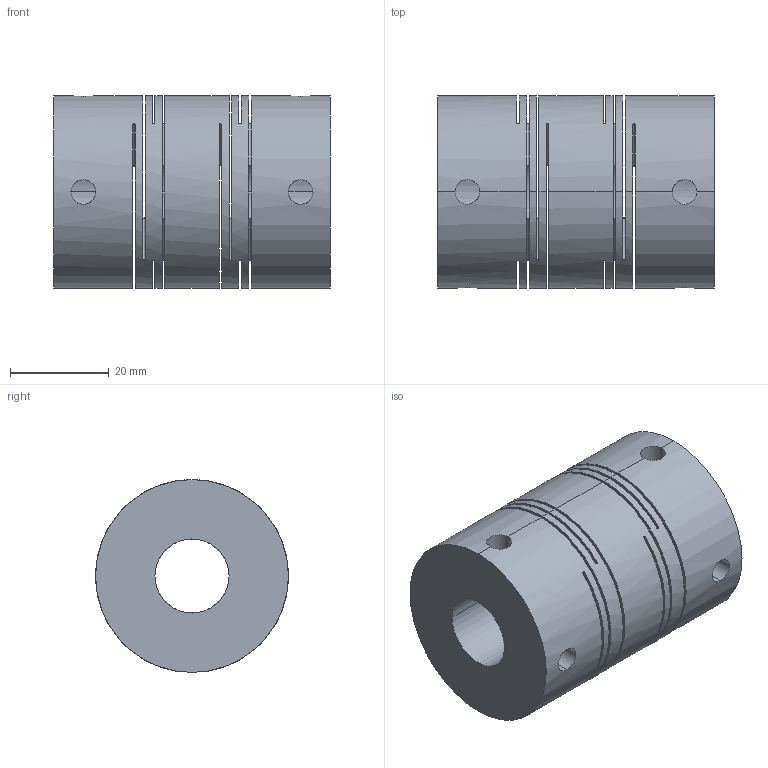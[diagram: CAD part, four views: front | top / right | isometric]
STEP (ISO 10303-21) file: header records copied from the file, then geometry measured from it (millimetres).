
FILE_DESCRIPTION(('Unknown'),'2;1');
FILE_NAME('','Unknown',('Unknown'),('Unknown'),'','Unknown','');
FILE_SCHEMA(('CONFIG_CONTROL_DESIGN'));
Length unit declared in the file: millimetre
Bounding box: 56 x 39 x 39 mm (x, y, z)
Volume: 53004.9 mm3; surface area: 23901.1 mm2
Topology: 1 solids, 1 shells, 54 faces, 212 edges, 140 vertices
Faces by surface type: cylinder 36, plane 18
Entity records: 5326 total; most frequent: CARTESIAN_POINT 3443, ORIENTED_EDGE 424, DIRECTION 358, EDGE_CURVE 212, AXIS2_PLACEMENT_3D 143, VERTEX_POINT 140, CIRCLE 88, LINE 72
